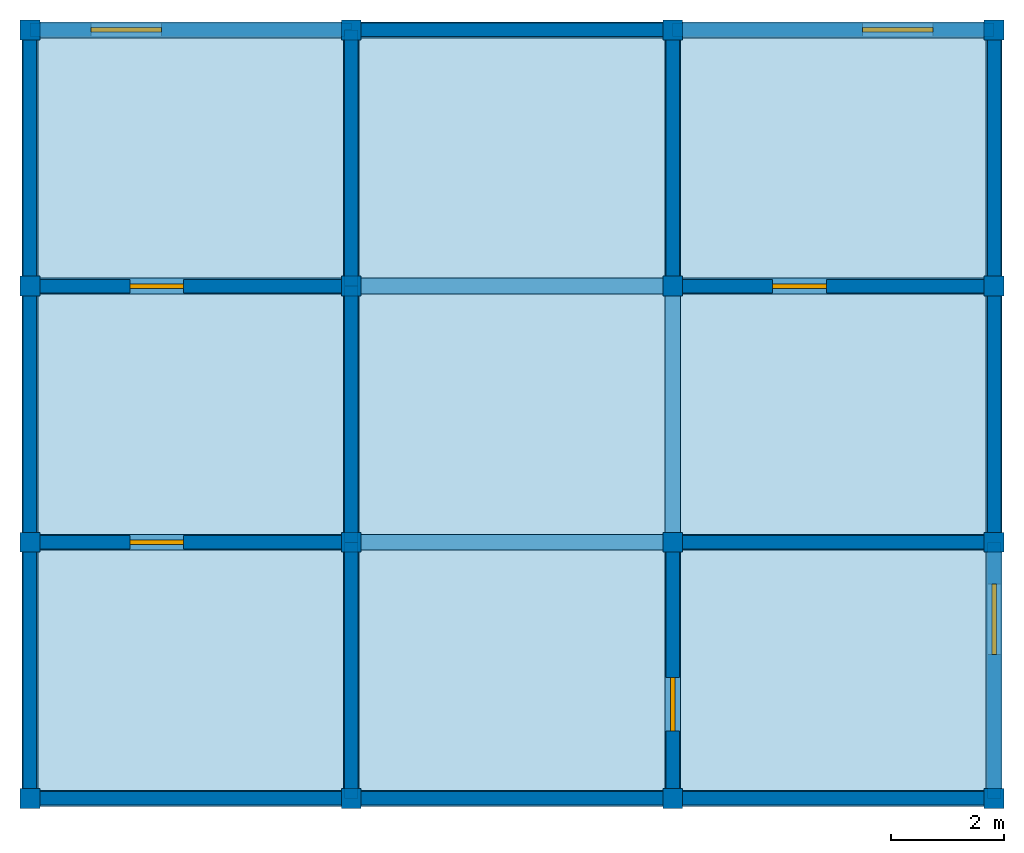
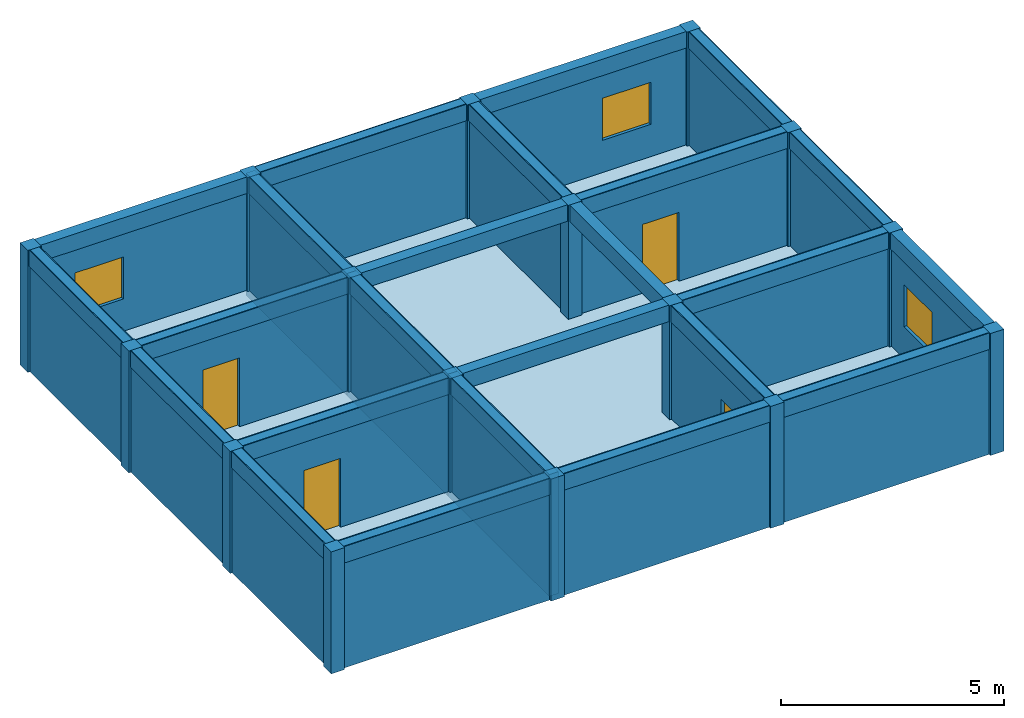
# One storey: 24 beams, 24 walls, 16 columns, 4 doors, 3 windows, 1 slab, 7 openings.
"""IFC4X3 building model written with IfcOpenShell, lengths in metres."""

from ifc_helpers import new_model, si_unit, frame, origin_with_axes, origin_2d, place, context, project, spatial, rectangle, extrude, material, element, fill, save


model = new_model("IFC4X3")

# Units and contexts
model_context = context("Model", 3, precision=1e-05, world=origin_with_axes())
ifc_project = project(units=[si_unit("LENGTHUNIT", "METRE"), si_unit("AREAUNIT", "SQUARE_METRE"), si_unit("VOLUMEUNIT", "CUBIC_METRE")], contexts=[model_context])

# Site, building, storey
site = spatial("IfcSite", under=ifc_project, Name="Valdivia Parcel", CompositionType="ELEMENT")
building = spatial("IfcBuilding", under=site, Name="Strata Block", CompositionType="ELEMENT")
storey = spatial("IfcBuildingStorey", under=building, Name="Level 3", CompositionType="ELEMENT", Elevation=6.67)

# Columns
ifc_material_1 = material(Name="Timber")
column_1_placement = place(None, frame((-8.525, -6.795, 6.671), z_axis=(0.0, 0.0, 1.0), x_axis=(1.0, 0.0, 0.0)))
element("IfcColumn", 1, at=column_1_placement, inside=storey, material=ifc_material_1, Name="Column 3.1", ObjectType="Core Column", PredefinedType="NOTDEFINED", context=model_context, shape_type="SweptSolid", body=[
    extrude(rectangle(XDim=0.35, YDim=0.35, at=origin_2d()), origin_with_axes(), (0.0, 0.0, 1.0), 3.335),
])
column_2_placement = place(None, frame((-8.525, -2.265, 6.671), z_axis=(0.0, 0.0, 1.0), x_axis=(1.0, 0.0, 0.0)))
element("IfcColumn", 2, at=column_2_placement, inside=storey, material=ifc_material_1, Name="Column 3.2", ObjectType="Structural Column", PredefinedType="PILASTER", context=model_context, shape_type="SweptSolid", body=[
    extrude(rectangle(XDim=0.35, YDim=0.35, at=origin_2d()), origin_with_axes(), (0.0, 0.0, 1.0), 3.335),
])
column_3_placement = place(None, frame((-8.525, 2.265, 6.671), z_axis=(0.0, 0.0, 1.0), x_axis=(1.0, 0.0, 0.0)))
element("IfcColumn", 3, at=column_3_placement, inside=storey, material=ifc_material_1, Name="Column 3.3", ObjectType="Core Column", PredefinedType="USERDEFINED", context=model_context, shape_type="SweptSolid", body=[
    extrude(rectangle(XDim=0.35, YDim=0.35, at=origin_2d()), origin_with_axes(), (0.0, 0.0, 1.0), 3.335),
])
column_4_placement = place(None, frame((-8.525, 6.795, 6.671), z_axis=(0.0, 0.0, 1.0), x_axis=(1.0, 0.0, 0.0)))
element("IfcColumn", 4, at=column_4_placement, inside=storey, material=ifc_material_1, Name="Column 3.4", ObjectType="Facade Column", PredefinedType="USERDEFINED", context=model_context, shape_type="SweptSolid", body=[
    extrude(rectangle(XDim=0.35, YDim=0.35, at=origin_2d()), origin_with_axes(), (0.0, 0.0, 1.0), 3.335),
])
column_5_placement = place(None, frame((-2.842, -6.795, 6.671), z_axis=(0.0, 0.0, 1.0), x_axis=(1.0, 0.0, 0.0)))
element("IfcColumn", 5, at=column_5_placement, inside=storey, material=ifc_material_1, Name="Column 3.5", ObjectType="Structural Column", PredefinedType="NOTDEFINED", context=model_context, shape_type="SweptSolid", body=[
    extrude(rectangle(XDim=0.35, YDim=0.35, at=origin_2d()), origin_with_axes(), (0.0, 0.0, 1.0), 3.335),
])
column_6_placement = place(None, frame((-2.842, -2.265, 6.671), z_axis=(0.0, 0.0, 1.0), x_axis=(1.0, 0.0, 0.0)))
element("IfcColumn", 6, at=column_6_placement, inside=storey, material=ifc_material_1, Name="Column 3.6", ObjectType="Structural Column", PredefinedType="COLUMN", context=model_context, shape_type="SweptSolid", body=[
    extrude(rectangle(XDim=0.35, YDim=0.35, at=origin_2d()), origin_with_axes(), (0.0, 0.0, 1.0), 3.335),
])
column_7_placement = place(None, frame((-2.842, 2.265, 6.671), z_axis=(0.0, 0.0, 1.0), x_axis=(1.0, 0.0, 0.0)))
element("IfcColumn", 7, at=column_7_placement, inside=storey, material=ifc_material_1, Name="Column 3.7", ObjectType="Structural Column", PredefinedType="PILASTER", context=model_context, shape_type="SweptSolid", body=[
    extrude(rectangle(XDim=0.35, YDim=0.35, at=origin_2d()), origin_with_axes(), (0.0, 0.0, 1.0), 3.335),
])
column_8_placement = place(None, frame((-2.842, 6.795, 6.671), z_axis=(0.0, 0.0, 1.0), x_axis=(1.0, 0.0, 0.0)))
element("IfcColumn", 8, at=column_8_placement, inside=storey, material=ifc_material_1, Name="Column 3.8", ObjectType="Facade Column", PredefinedType="PILASTER", context=model_context, shape_type="SweptSolid", body=[
    extrude(rectangle(XDim=0.35, YDim=0.35, at=origin_2d()), origin_with_axes(), (0.0, 0.0, 1.0), 3.335),
])
column_9_placement = place(None, frame((2.841, -6.795, 6.671), z_axis=(0.0, 0.0, 1.0), x_axis=(1.0, 0.0, 0.0)))
element("IfcColumn", 9, at=column_9_placement, inside=storey, material=ifc_material_1, Name="Column 3.9", ObjectType="Structural Column", PredefinedType="COLUMN", context=model_context, shape_type="SweptSolid", body=[
    extrude(rectangle(XDim=0.35, YDim=0.35, at=origin_2d()), origin_with_axes(), (0.0, 0.0, 1.0), 3.335),
])
column_10_placement = place(None, frame((2.841, -2.265, 6.671), z_axis=(0.0, 0.0, 1.0), x_axis=(1.0, 0.0, 0.0)))
element("IfcColumn", 10, at=column_10_placement, inside=storey, material=ifc_material_1, Name="Column 3.10", ObjectType="Core Column", PredefinedType="USERDEFINED", context=model_context, shape_type="SweptSolid", body=[
    extrude(rectangle(XDim=0.35, YDim=0.35, at=origin_2d()), origin_with_axes(), (0.0, 0.0, 1.0), 3.335),
])
column_11_placement = place(None, frame((2.841, 2.265, 6.671), z_axis=(0.0, 0.0, 1.0), x_axis=(1.0, 0.0, 0.0)))
element("IfcColumn", 11, at=column_11_placement, inside=storey, material=ifc_material_1, Name="Column 3.11", ObjectType="Facade Column", PredefinedType="COLUMN", context=model_context, shape_type="SweptSolid", body=[
    extrude(rectangle(XDim=0.35, YDim=0.35, at=origin_2d()), origin_with_axes(), (0.0, 0.0, 1.0), 3.335),
])
column_12_placement = place(None, frame((2.841, 6.795, 6.671), z_axis=(0.0, 0.0, 1.0), x_axis=(1.0, 0.0, 0.0)))
element("IfcColumn", 12, at=column_12_placement, inside=storey, material=ifc_material_1, Name="Column 3.12", ObjectType="Corner Column", PredefinedType="PILASTER", context=model_context, shape_type="SweptSolid", body=[
    extrude(rectangle(XDim=0.35, YDim=0.35, at=origin_2d()), origin_with_axes(), (0.0, 0.0, 1.0), 3.335),
])
for number, where, z_axis, x_axis, name in (
    (13, (8.524, -6.795, 6.671), (0.0, 0.0, 1.0), (1.0, 0.0, 0.0), "Column 3.13"),
    (14, (8.524, -2.265, 6.671), (0.0, 0.0, 1.0), (1.0, 0.0, 0.0), "Column 3.14"),
):
    element("IfcColumn", number, at=place(None, frame(where, z_axis=z_axis, x_axis=x_axis)), inside=storey, material=ifc_material_1, Name=name, ObjectType="Facade Column", PredefinedType="USERDEFINED", context=model_context, shape_type="SweptSolid", body=[
        extrude(rectangle(XDim=0.35, YDim=0.35, at=origin_2d()), origin_with_axes(), (0.0, 0.0, 1.0), 3.335),
    ])
column_13_placement = place(None, frame((8.524, 2.265, 6.671), z_axis=(0.0, 0.0, 1.0), x_axis=(1.0, 0.0, 0.0)))
element("IfcColumn", 15, at=column_13_placement, inside=storey, material=ifc_material_1, Name="Column 3.15", ObjectType="Facade Column", PredefinedType="PILASTER", context=model_context, shape_type="SweptSolid", body=[
    extrude(rectangle(XDim=0.35, YDim=0.35, at=origin_2d()), origin_with_axes(), (0.0, 0.0, 1.0), 3.335),
])
column_14_placement = place(None, frame((8.524, 6.795, 6.671), z_axis=(0.0, 0.0, 1.0), x_axis=(1.0, 0.0, 0.0)))
element("IfcColumn", 16, at=column_14_placement, inside=storey, material=ifc_material_1, Name="Column 3.16", ObjectType="Core Column", PredefinedType="NOTDEFINED", context=model_context, shape_type="SweptSolid", body=[
    extrude(rectangle(XDim=0.35, YDim=0.35, at=origin_2d()), origin_with_axes(), (0.0, 0.0, 1.0), 3.335),
])

# Beams
beam_1_placement = place(None, frame((-5.684, -6.795, 9.556), z_axis=(0.0, 0.0, 1.0), x_axis=(1.0, 0.0, 0.0)))
element("IfcBeam", 17, at=beam_1_placement, inside=storey, material=ifc_material_1, Name="Beam 3.1", ObjectType="Transfer Beam", PredefinedType="HOLLOWCORE", context=model_context, shape_type="SweptSolid", body=[
    extrude(rectangle(XDim=5.683, YDim=0.28, at=origin_2d()), origin_with_axes(), (0.0, 0.0, 1.0), 0.45),
])
beam_2_placement = place(None, frame((0.0, -6.795, 9.556), z_axis=(0.0, 0.0, 1.0), x_axis=(1.0, 0.0, 0.0)))
element("IfcBeam", 18, at=beam_2_placement, inside=storey, material=ifc_material_1, Name="Beam 3.2", ObjectType="Ridge Beam", PredefinedType="SPANDREL", context=model_context, shape_type="SweptSolid", body=[
    extrude(rectangle(XDim=5.683, YDim=0.28, at=origin_2d()), origin_with_axes(), (0.0, 0.0, 1.0), 0.45),
])
beam_3_placement = place(None, frame((5.682, -6.795, 9.556), z_axis=(0.0, 0.0, 1.0), x_axis=(1.0, 0.0, 0.0)))
element("IfcBeam", 19, at=beam_3_placement, inside=storey, material=ifc_material_1, Name="Beam 3.3", ObjectType="Transfer Beam", PredefinedType="T_BEAM", context=model_context, shape_type="SweptSolid", body=[
    extrude(rectangle(XDim=5.683, YDim=0.28, at=origin_2d()), origin_with_axes(), (0.0, 0.0, 1.0), 0.45),
])
beam_4_placement = place(None, frame((-5.684, -2.265, 9.556), z_axis=(0.0, 0.0, 1.0), x_axis=(1.0, 0.0, 0.0)))
element("IfcBeam", 20, at=beam_4_placement, inside=storey, material=ifc_material_1, Name="Beam 3.4", ObjectType="Ridge Beam", PredefinedType="USERDEFINED", context=model_context, shape_type="SweptSolid", body=[
    extrude(rectangle(XDim=5.683, YDim=0.28, at=origin_2d()), origin_with_axes(), (0.0, 0.0, 1.0), 0.45),
])
beam_5_placement = place(None, frame((0.0, -2.265, 9.556), z_axis=(0.0, 0.0, 1.0), x_axis=(1.0, 0.0, 0.0)))
element("IfcBeam", 21, at=beam_5_placement, inside=storey, material=ifc_material_1, Name="Beam 3.5", ObjectType="Secondary Beam", PredefinedType="SPANDREL", context=model_context, shape_type="SweptSolid", body=[
    extrude(rectangle(XDim=5.683, YDim=0.28, at=origin_2d()), origin_with_axes(), (0.0, 0.0, 1.0), 0.45),
])
beam_6_placement = place(None, frame((5.682, -2.265, 9.556), z_axis=(0.0, 0.0, 1.0), x_axis=(1.0, 0.0, 0.0)))
element("IfcBeam", 22, at=beam_6_placement, inside=storey, material=ifc_material_1, Name="Beam 3.6", ObjectType="Secondary Beam", PredefinedType="JOIST", context=model_context, shape_type="SweptSolid", body=[
    extrude(rectangle(XDim=5.683, YDim=0.28, at=origin_2d()), origin_with_axes(), (0.0, 0.0, 1.0), 0.45),
])
beam_7_placement = place(None, frame((-5.684, 2.265, 9.556), z_axis=(0.0, 0.0, 1.0), x_axis=(1.0, 0.0, 0.0)))
element("IfcBeam", 23, at=beam_7_placement, inside=storey, material=ifc_material_1, Name="Beam 3.7", ObjectType="Rafter Beam", PredefinedType="HOLLOWCORE", context=model_context, shape_type="SweptSolid", body=[
    extrude(rectangle(XDim=5.683, YDim=0.28, at=origin_2d()), origin_with_axes(), (0.0, 0.0, 1.0), 0.45),
])
beam_8_placement = place(None, frame((0.0, 2.265, 9.556), z_axis=(0.0, 0.0, 1.0), x_axis=(1.0, 0.0, 0.0)))
element("IfcBeam", 24, at=beam_8_placement, inside=storey, material=ifc_material_1, Name="Beam 3.8", ObjectType="Transfer Beam", PredefinedType="BEAM", context=model_context, shape_type="SweptSolid", body=[
    extrude(rectangle(XDim=5.683, YDim=0.28, at=origin_2d()), origin_with_axes(), (0.0, 0.0, 1.0), 0.45),
])
beam_9_placement = place(None, frame((5.682, 2.265, 9.556), z_axis=(0.0, 0.0, 1.0), x_axis=(1.0, 0.0, 0.0)))
element("IfcBeam", 25, at=beam_9_placement, inside=storey, material=ifc_material_1, Name="Beam 3.9", ObjectType="Transfer Beam", PredefinedType="LINTEL", context=model_context, shape_type="SweptSolid", body=[
    extrude(rectangle(XDim=5.683, YDim=0.28, at=origin_2d()), origin_with_axes(), (0.0, 0.0, 1.0), 0.45),
])
beam_10_placement = place(None, frame((-5.684, 6.795, 9.556), z_axis=(0.0, 0.0, 1.0), x_axis=(1.0, 0.0, 0.0)))
element("IfcBeam", 26, at=beam_10_placement, inside=storey, material=ifc_material_1, Name="Beam 3.10", ObjectType="Rafter Beam", PredefinedType="HOLLOWCORE", context=model_context, shape_type="SweptSolid", body=[
    extrude(rectangle(XDim=5.683, YDim=0.28, at=origin_2d()), origin_with_axes(), (0.0, 0.0, 1.0), 0.45),
])
beam_11_placement = place(None, frame((0.0, 6.795, 9.556), z_axis=(0.0, 0.0, 1.0), x_axis=(1.0, 0.0, 0.0)))
element("IfcBeam", 27, at=beam_11_placement, inside=storey, material=ifc_material_1, Name="Beam 3.11", ObjectType="Secondary Beam", PredefinedType="BEAM", context=model_context, shape_type="SweptSolid", body=[
    extrude(rectangle(XDim=5.683, YDim=0.28, at=origin_2d()), origin_with_axes(), (0.0, 0.0, 1.0), 0.45),
])
beam_12_placement = place(None, frame((5.682, 6.795, 9.556), z_axis=(0.0, 0.0, 1.0), x_axis=(1.0, 0.0, 0.0)))
element("IfcBeam", 28, at=beam_12_placement, inside=storey, material=ifc_material_1, Name="Beam 3.12", ObjectType="Transfer Beam", PredefinedType="T_BEAM", context=model_context, shape_type="SweptSolid", body=[
    extrude(rectangle(XDim=5.683, YDim=0.28, at=origin_2d()), origin_with_axes(), (0.0, 0.0, 1.0), 0.45),
])
beam_13_placement = place(None, frame((-8.525, -4.53, 9.556), z_axis=(0.0, 0.0, 1.0), x_axis=(0.0, 1.0, 0.0)))
element("IfcBeam", 29, at=beam_13_placement, inside=storey, material=ifc_material_1, Name="Beam 3.13", ObjectType="Transfer Beam", PredefinedType="SPANDREL", context=model_context, shape_type="SweptSolid", body=[
    extrude(rectangle(XDim=4.53, YDim=0.28, at=origin_2d()), origin_with_axes(), (0.0, 0.0, 1.0), 0.45),
])
beam_14_placement = place(None, frame((-8.525, 0.0, 9.556), z_axis=(0.0, 0.0, 1.0), x_axis=(0.0, 1.0, 0.0)))
element("IfcBeam", 30, at=beam_14_placement, inside=storey, material=ifc_material_1, Name="Beam 3.14", ObjectType="Transfer Beam", PredefinedType="LINTEL", context=model_context, shape_type="SweptSolid", body=[
    extrude(rectangle(XDim=4.53, YDim=0.28, at=origin_2d()), origin_with_axes(), (0.0, 0.0, 1.0), 0.45),
])
beam_15_placement = place(None, frame((-8.525, 4.53, 9.556), z_axis=(0.0, 0.0, 1.0), x_axis=(0.0, 1.0, 0.0)))
element("IfcBeam", 31, at=beam_15_placement, inside=storey, material=ifc_material_1, Name="Beam 3.15", ObjectType="Transfer Beam", PredefinedType="HOLLOWCORE", context=model_context, shape_type="SweptSolid", body=[
    extrude(rectangle(XDim=4.53, YDim=0.28, at=origin_2d()), origin_with_axes(), (0.0, 0.0, 1.0), 0.45),
])
beam_16_placement = place(None, frame((-2.842, -4.53, 9.556), z_axis=(0.0, 0.0, 1.0), x_axis=(0.0, 1.0, 0.0)))
element("IfcBeam", 32, at=beam_16_placement, inside=storey, material=ifc_material_1, Name="Beam 3.16", ObjectType="Secondary Beam", PredefinedType="HOLLOWCORE", context=model_context, shape_type="SweptSolid", body=[
    extrude(rectangle(XDim=4.53, YDim=0.28, at=origin_2d()), origin_with_axes(), (0.0, 0.0, 1.0), 0.45),
])
beam_17_placement = place(None, frame((-2.842, 0.0, 9.556), z_axis=(0.0, 0.0, 1.0), x_axis=(0.0, 1.0, 0.0)))
element("IfcBeam", 33, at=beam_17_placement, inside=storey, material=ifc_material_1, Name="Beam 3.17", ObjectType="Ridge Beam", PredefinedType="BEAM", context=model_context, shape_type="SweptSolid", body=[
    extrude(rectangle(XDim=4.53, YDim=0.28, at=origin_2d()), origin_with_axes(), (0.0, 0.0, 1.0), 0.45),
])
beam_18_placement = place(None, frame((-2.842, 4.53, 9.556), z_axis=(0.0, 0.0, 1.0), x_axis=(0.0, 1.0, 0.0)))
element("IfcBeam", 34, at=beam_18_placement, inside=storey, material=ifc_material_1, Name="Beam 3.18", ObjectType="Primary Beam", PredefinedType="USERDEFINED", context=model_context, shape_type="SweptSolid", body=[
    extrude(rectangle(XDim=4.53, YDim=0.28, at=origin_2d()), origin_with_axes(), (0.0, 0.0, 1.0), 0.45),
])
beam_19_placement = place(None, frame((2.841, -4.53, 9.556), z_axis=(0.0, 0.0, 1.0), x_axis=(0.0, 1.0, 0.0)))
element("IfcBeam", 35, at=beam_19_placement, inside=storey, material=ifc_material_1, Name="Beam 3.19", ObjectType="Transfer Beam", PredefinedType="JOIST", context=model_context, shape_type="SweptSolid", body=[
    extrude(rectangle(XDim=4.53, YDim=0.28, at=origin_2d()), origin_with_axes(), (0.0, 0.0, 1.0), 0.45),
])
beam_20_placement = place(None, frame((2.841, 0.0, 9.556), z_axis=(0.0, 0.0, 1.0), x_axis=(0.0, 1.0, 0.0)))
element("IfcBeam", 36, at=beam_20_placement, inside=storey, material=ifc_material_1, Name="Beam 3.20", ObjectType="Ridge Beam", PredefinedType="JOIST", context=model_context, shape_type="SweptSolid", body=[
    extrude(rectangle(XDim=4.53, YDim=0.28, at=origin_2d()), origin_with_axes(), (0.0, 0.0, 1.0), 0.45),
])
beam_21_placement = place(None, frame((2.841, 4.53, 9.556), z_axis=(0.0, 0.0, 1.0), x_axis=(0.0, 1.0, 0.0)))
element("IfcBeam", 37, at=beam_21_placement, inside=storey, material=ifc_material_1, Name="Beam 3.21", ObjectType="Primary Beam", PredefinedType="SPANDREL", context=model_context, shape_type="SweptSolid", body=[
    extrude(rectangle(XDim=4.53, YDim=0.28, at=origin_2d()), origin_with_axes(), (0.0, 0.0, 1.0), 0.45),
])
beam_22_placement = place(None, frame((8.524, -4.53, 9.556), z_axis=(0.0, 0.0, 1.0), x_axis=(0.0, 1.0, 0.0)))
element("IfcBeam", 38, at=beam_22_placement, inside=storey, material=ifc_material_1, Name="Beam 3.22", ObjectType="Secondary Beam", PredefinedType="BEAM", context=model_context, shape_type="SweptSolid", body=[
    extrude(rectangle(XDim=4.53, YDim=0.28, at=origin_2d()), origin_with_axes(), (0.0, 0.0, 1.0), 0.45),
])
beam_23_placement = place(None, frame((8.524, 0.0, 9.556), z_axis=(0.0, 0.0, 1.0), x_axis=(0.0, 1.0, 0.0)))
element("IfcBeam", 39, at=beam_23_placement, inside=storey, material=ifc_material_1, Name="Beam 3.23", ObjectType="Transfer Beam", PredefinedType="LINTEL", context=model_context, shape_type="SweptSolid", body=[
    extrude(rectangle(XDim=4.53, YDim=0.28, at=origin_2d()), origin_with_axes(), (0.0, 0.0, 1.0), 0.45),
])
beam_24_placement = place(None, frame((8.524, 4.53, 9.556), z_axis=(0.0, 0.0, 1.0), x_axis=(0.0, 1.0, 0.0)))
element("IfcBeam", 40, at=beam_24_placement, inside=storey, material=ifc_material_1, Name="Beam 3.24", ObjectType="Rafter Beam", PredefinedType="HOLLOWCORE", context=model_context, shape_type="SweptSolid", body=[
    extrude(rectangle(XDim=4.53, YDim=0.28, at=origin_2d()), origin_with_axes(), (0.0, 0.0, 1.0), 0.45),
])

# Slab
ifc_material_2 = material(Name="Composite")
slab_placement = place(None, frame((0.0, 0.0, 6.67), z_axis=(0.0, 0.0, 1.0), x_axis=(1.0, 0.0, 0.0)))
element("IfcSlab", 41, at=slab_placement, inside=storey, material=ifc_material_2, Name="Slab 3", ObjectType="Floor Slab", PredefinedType="FLOOR", context=model_context, shape_type="SweptSolid", body=[
    extrude(rectangle(XDim=17.05, YDim=13.59, at=origin_2d()), origin_with_axes(), (0.0, 0.0, 1.0), 0.22),
])

# Wall, opening, door
ifc_material_3 = material(Name="CLT")
wall_1_placement = place(None, frame((-5.684, -2.265, 6.671), z_axis=(0.0, 0.0, 1.0), x_axis=(1.0, 0.0, 0.0)))
wall_1 = element("IfcWall", 42, at=wall_1_placement, inside=storey, material=ifc_material_3, Name="Wall 3.1", ObjectType="Corridor Partition", PredefinedType="USERDEFINED", context=model_context, shape_type="SweptSolid", body=[
    extrude(rectangle(XDim=5.683, YDim=0.238962, at=origin_2d()), origin_with_axes(), (0.0, 0.0, 1.0), 3.335),
])
opening_1_placement = place(None, frame((-6.284, -2.265, 6.671), z_axis=(0.0, 0.0, 1.0), x_axis=(1.0, 0.0, 0.0)))
opening_1 = element("IfcOpeningElement", 43, at=opening_1_placement, cuts=wall_1, Name="Door opening 3.1", ObjectType="Door Opening", PredefinedType="OPENING", context=model_context, shape_type="SweptSolid", body=[
    extrude(rectangle(XDim=0.95, YDim=0.318962, at=origin_2d()), origin_with_axes(), (0.0, 0.0, 1.0), 2.1),
])
door_1_placement = place(None, frame((-6.284, -2.265, 6.671), z_axis=(0.0, 0.0, 1.0), x_axis=(1.0, 0.0, 0.0)))
door_1 = element("IfcDoor", 44, at=door_1_placement, inside=storey, Name="Door 3.1", ObjectType="Fire Door", OverallHeight=2.1, OverallWidth=0.95, context=model_context, shape_type="SweptSolid", body=[
    extrude(rectangle(XDim=0.95, YDim=0.08, at=origin_2d()), origin_with_axes(), (0.0, 0.0, 1.0), 2.1),
])
fill(opening_1, door_1)

# Walls
ifc_material_4 = material(Name="Gypsum")
wall_2_placement = place(None, frame((-2.8425, -4.53, 6.671), z_axis=(0.0, 0.0, 1.0), x_axis=(0.0, 1.0, 0.0)))
element("IfcWall", 45, at=wall_2_placement, inside=storey, material=ifc_material_4, Name="Wall 3.2", ObjectType="Exterior Wall", PredefinedType="PARTITIONING", context=model_context, shape_type="SweptSolid", body=[
    extrude(rectangle(XDim=4.53, YDim=0.238962, at=origin_2d()), origin_with_axes(), (0.0, 0.0, 1.0), 3.335),
])
wall_3_placement = place(None, frame((-5.684, -6.795, 6.671), z_axis=(0.0, 0.0, 1.0), x_axis=(1.0, 0.0, 0.0)))
element("IfcWall", 46, at=wall_3_placement, inside=storey, material=ifc_material_4, Name="Wall 3.3", ObjectType="Exterior Wall", PredefinedType="MOVABLE", context=model_context, shape_type="SweptSolid", body=[
    extrude(rectangle(XDim=5.683, YDim=0.238962, at=origin_2d()), origin_with_axes(), (0.0, 0.0, 1.0), 3.335),
])
wall_4_placement = place(None, frame((-8.5255, -4.53, 6.671), z_axis=(0.0, 0.0, 1.0), x_axis=(0.0, 1.0, 0.0)))
element("IfcWall", 47, at=wall_4_placement, inside=storey, material=ifc_material_4, Name="Wall 3.4", ObjectType="Exterior Wall", PredefinedType="POLYGONAL", context=model_context, shape_type="SweptSolid", body=[
    extrude(rectangle(XDim=4.53, YDim=0.238962, at=origin_2d()), origin_with_axes(), (0.0, 0.0, 1.0), 3.335),
])

# Wall, opening, door
ifc_material_5 = material(Name="Concrete")
wall_5_placement = place(None, frame((2.8405, -4.53, 6.671), z_axis=(0.0, 0.0, 1.0), x_axis=(0.0, 1.0, 0.0)))
wall_5 = element("IfcWall", 48, at=wall_5_placement, inside=storey, material=ifc_material_5, Name="Wall 3.5", ObjectType="Corridor Partition", PredefinedType="USERDEFINED", context=model_context, shape_type="SweptSolid", body=[
    extrude(rectangle(XDim=4.53, YDim=0.238962, at=origin_2d()), origin_with_axes(), (0.0, 0.0, 1.0), 3.335),
])
opening_2_placement = place(None, frame((2.841, -5.13, 6.671), z_axis=(0.0, 0.0, 1.0), x_axis=(0.0, 1.0, 0.0)))
opening_2 = element("IfcOpeningElement", 49, at=opening_2_placement, cuts=wall_5, Name="Door opening 3.2", ObjectType="Door Opening", PredefinedType="OPENING", context=model_context, shape_type="SweptSolid", body=[
    extrude(rectangle(XDim=0.95, YDim=0.318962, at=origin_2d()), origin_with_axes(), (0.0, 0.0, 1.0), 2.1),
])
door_2_placement = place(None, frame((2.841, -5.13, 6.671), z_axis=(0.0, 0.0, 1.0), x_axis=(0.0, 1.0, 0.0)))
door_2 = element("IfcDoor", 50, at=door_2_placement, inside=storey, Name="Door 3.2", ObjectType="Fire Door", OverallHeight=2.1, OverallWidth=0.95, context=model_context, shape_type="SweptSolid", body=[
    extrude(rectangle(XDim=0.95, YDim=0.08, at=origin_2d()), origin_with_axes(), (0.0, 0.0, 1.0), 2.1),
])
fill(opening_2, door_2)

# Walls
wall_6_placement = place(None, frame((-0.001, -6.795, 6.671), z_axis=(0.0, 0.0, 1.0), x_axis=(1.0, 0.0, 0.0)))
element("IfcWall", 51, at=wall_6_placement, inside=storey, material=ifc_material_4, Name="Wall 3.6", ObjectType="Exterior Wall", PredefinedType="SHEAR", context=model_context, shape_type="SweptSolid", body=[
    extrude(rectangle(XDim=5.683, YDim=0.238962, at=origin_2d()), origin_with_axes(), (0.0, 0.0, 1.0), 3.335),
])
wall_7_placement = place(None, frame((-2.8425, -4.53, 6.671), z_axis=(0.0, 0.0, 1.0), x_axis=(0.0, 1.0, 0.0)))
element("IfcWall", 52, at=wall_7_placement, inside=storey, material=ifc_material_4, Name="Wall 3.7", ObjectType="Exterior Wall", PredefinedType="SHEAR", context=model_context, shape_type="SweptSolid", body=[
    extrude(rectangle(XDim=4.53, YDim=0.238962, at=origin_2d()), origin_with_axes(), (0.0, 0.0, 1.0), 3.335),
])
wall_8_placement = place(None, frame((5.682, -2.265, 6.671), z_axis=(0.0, 0.0, 1.0), x_axis=(1.0, 0.0, 0.0)))
element("IfcWall", 53, at=wall_8_placement, inside=storey, material=ifc_material_4, Name="Wall 3.8", ObjectType="Corridor Partition", PredefinedType="USERDEFINED", context=model_context, shape_type="SweptSolid", body=[
    extrude(rectangle(XDim=5.683, YDim=0.238962, at=origin_2d()), origin_with_axes(), (0.0, 0.0, 1.0), 3.335),
])

# Wall, opening, window
ifc_material_6 = material(Name="Brick")
wall_9_placement = place(None, frame((8.5235, -4.53, 6.671), z_axis=(0.0, 0.0, 1.0), x_axis=(0.0, 1.0, 0.0)))
wall_9 = element("IfcWall", 54, at=wall_9_placement, inside=storey, material=ifc_material_6, Name="Wall 3.9", ObjectType="Exterior Wall", PredefinedType="SHEAR", context=model_context, shape_type="SweptSolid", body=[
    extrude(rectangle(XDim=4.53, YDim=0.238962, at=origin_2d()), origin_with_axes(), (0.0, 0.0, 1.0), 3.335),
])
opening_3_placement = place(None, frame((8.524, -3.624, 7.771), z_axis=(0.0, 0.0, 1.0), x_axis=(0.0, 1.0, 0.0)))
opening_3 = element("IfcOpeningElement", 55, at=opening_3_placement, cuts=wall_9, Name="Window opening 3.3", ObjectType="Window Opening", PredefinedType="OPENING", context=model_context, shape_type="SweptSolid", body=[
    extrude(rectangle(XDim=1.25, YDim=0.318962, at=origin_2d()), origin_with_axes(), (0.0, 0.0, 1.0), 1.15),
])
window_1_placement = place(None, frame((8.524, -3.624, 7.771), z_axis=(0.0, 0.0, 1.0), x_axis=(0.0, 1.0, 0.0)))
window_1 = element("IfcWindow", 56, at=window_1_placement, inside=storey, Name="Window 3.3", ObjectType="Operable Window", OverallHeight=1.15, OverallWidth=1.25, context=model_context, shape_type="SweptSolid", body=[
    extrude(rectangle(XDim=1.25, YDim=0.08, at=origin_2d()), origin_with_axes(), (0.0, 0.0, 1.0), 1.15),
])
fill(opening_3, window_1)

# Wall
wall_10_placement = place(None, frame((5.682, -6.795, 6.671), z_axis=(0.0, 0.0, 1.0), x_axis=(1.0, 0.0, 0.0)))
element("IfcWall", 57, at=wall_10_placement, inside=storey, material=ifc_material_6, Name="Wall 3.10", ObjectType="Exterior Wall", PredefinedType="ELEMENTEDWALL", context=model_context, shape_type="SweptSolid", body=[
    extrude(rectangle(XDim=5.683, YDim=0.238962, at=origin_2d()), origin_with_axes(), (0.0, 0.0, 1.0), 3.335),
])

# Wall, opening, door
wall_11_placement = place(None, frame((-5.684, 2.265, 6.671), z_axis=(0.0, 0.0, 1.0), x_axis=(1.0, 0.0, 0.0)))
wall_11 = element("IfcWall", 58, at=wall_11_placement, inside=storey, material=ifc_material_6, Name="Wall 3.11", ObjectType="Corridor Partition", PredefinedType="SHEAR", context=model_context, shape_type="SweptSolid", body=[
    extrude(rectangle(XDim=5.683, YDim=0.238962, at=origin_2d()), origin_with_axes(), (0.0, 0.0, 1.0), 3.335),
])
opening_4_placement = place(None, frame((-6.284, 2.265, 6.671), z_axis=(0.0, 0.0, 1.0), x_axis=(1.0, 0.0, 0.0)))
opening_4 = element("IfcOpeningElement", 59, at=opening_4_placement, cuts=wall_11, Name="Door opening 3.4", ObjectType="Door Opening", PredefinedType="OPENING", context=model_context, shape_type="SweptSolid", body=[
    extrude(rectangle(XDim=0.95, YDim=0.318962, at=origin_2d()), origin_with_axes(), (0.0, 0.0, 1.0), 2.1),
])
door_3_placement = place(None, frame((-6.284, 2.265, 6.671), z_axis=(0.0, 0.0, 1.0), x_axis=(1.0, 0.0, 0.0)))
door_3 = element("IfcDoor", 60, at=door_3_placement, inside=storey, Name="Door 3.4", ObjectType="Interior Door", OverallHeight=2.1, OverallWidth=0.95, context=model_context, shape_type="SweptSolid", body=[
    extrude(rectangle(XDim=0.95, YDim=0.08, at=origin_2d()), origin_with_axes(), (0.0, 0.0, 1.0), 2.1),
])
fill(opening_4, door_3)

# Walls
wall_12_placement = place(None, frame((-2.8425, 0.0, 6.671), z_axis=(0.0, 0.0, 1.0), x_axis=(0.0, 1.0, 0.0)))
element("IfcWall", 61, at=wall_12_placement, inside=storey, material=ifc_material_6, Name="Wall 3.12", ObjectType="Exterior Wall", PredefinedType="PARTITIONING", context=model_context, shape_type="SweptSolid", body=[
    extrude(rectangle(XDim=4.53, YDim=0.238962, at=origin_2d()), origin_with_axes(), (0.0, 0.0, 1.0), 3.335),
])
wall_13_placement = place(None, frame((-8.5255, 0.0, 6.671), z_axis=(0.0, 0.0, 1.0), x_axis=(0.0, 1.0, 0.0)))
element("IfcWall", 62, at=wall_13_placement, inside=storey, material=ifc_material_3, Name="Wall 3.13", ObjectType="Exterior Wall", PredefinedType="ELEMENTEDWALL", context=model_context, shape_type="SweptSolid", body=[
    extrude(rectangle(XDim=4.53, YDim=0.238962, at=origin_2d()), origin_with_axes(), (0.0, 0.0, 1.0), 3.335),
])
wall_14_placement = place(None, frame((-2.8425, 0.0, 6.671), z_axis=(0.0, 0.0, 1.0), x_axis=(0.0, 1.0, 0.0)))
element("IfcWall", 63, at=wall_14_placement, inside=storey, material=ifc_material_6, Name="Wall 3.14", ObjectType="Exterior Wall", PredefinedType="MOVABLE", context=model_context, shape_type="SweptSolid", body=[
    extrude(rectangle(XDim=4.53, YDim=0.238962, at=origin_2d()), origin_with_axes(), (0.0, 0.0, 1.0), 3.335),
])

# Wall, opening, door
wall_15_placement = place(None, frame((5.682, 2.265, 6.671), z_axis=(0.0, 0.0, 1.0), x_axis=(1.0, 0.0, 0.0)))
wall_15 = element("IfcWall", 64, at=wall_15_placement, inside=storey, material=ifc_material_3, Name="Wall 3.15", ObjectType="Corridor Partition", PredefinedType="SOLIDWALL", context=model_context, shape_type="SweptSolid", body=[
    extrude(rectangle(XDim=5.683, YDim=0.238962, at=origin_2d()), origin_with_axes(), (0.0, 0.0, 1.0), 3.335),
])
opening_5_placement = place(None, frame((5.082, 2.265, 6.671), z_axis=(0.0, 0.0, 1.0), x_axis=(1.0, 0.0, 0.0)))
opening_5 = element("IfcOpeningElement", 65, at=opening_5_placement, cuts=wall_15, Name="Door opening 3.6", ObjectType="Door Opening", PredefinedType="OPENING", context=model_context, shape_type="SweptSolid", body=[
    extrude(rectangle(XDim=0.95, YDim=0.318962, at=origin_2d()), origin_with_axes(), (0.0, 0.0, 1.0), 2.1),
])
door_4_placement = place(None, frame((5.082, 2.265, 6.671), z_axis=(0.0, 0.0, 1.0), x_axis=(1.0, 0.0, 0.0)))
door_4 = element("IfcDoor", 66, at=door_4_placement, inside=storey, Name="Door 3.6", ObjectType="Fire Door", OverallHeight=2.1, OverallWidth=0.95, context=model_context, shape_type="SweptSolid", body=[
    extrude(rectangle(XDim=0.95, YDim=0.08, at=origin_2d()), origin_with_axes(), (0.0, 0.0, 1.0), 2.1),
])
fill(opening_5, door_4)

# Wall
wall_16_placement = place(None, frame((8.5235, 0.0, 6.671), z_axis=(0.0, 0.0, 1.0), x_axis=(0.0, 1.0, 0.0)))
element("IfcWall", 67, at=wall_16_placement, inside=storey, material=ifc_material_3, Name="Wall 3.16", ObjectType="Exterior Wall", PredefinedType="SOLIDWALL", context=model_context, shape_type="SweptSolid", body=[
    extrude(rectangle(XDim=4.53, YDim=0.238962, at=origin_2d()), origin_with_axes(), (0.0, 0.0, 1.0), 3.335),
])

# Wall, opening, window
wall_17_placement = place(None, frame((-5.684, 6.795, 6.671), z_axis=(0.0, 0.0, 1.0), x_axis=(1.0, 0.0, 0.0)))
wall_17 = element("IfcWall", 68, at=wall_17_placement, inside=storey, material=ifc_material_5, Name="Wall 3.17", ObjectType="Exterior Wall", PredefinedType="STANDARD", context=model_context, shape_type="SweptSolid", body=[
    extrude(rectangle(XDim=5.683, YDim=0.238962, at=origin_2d()), origin_with_axes(), (0.0, 0.0, 1.0), 3.335),
])
opening_6_placement = place(None, frame((-6.821, 6.795, 7.771), z_axis=(0.0, 0.0, 1.0), x_axis=(1.0, 0.0, 0.0)))
opening_6 = element("IfcOpeningElement", 69, at=opening_6_placement, cuts=wall_17, Name="Window opening 3.5", ObjectType="Window Opening", PredefinedType="OPENING", context=model_context, shape_type="SweptSolid", body=[
    extrude(rectangle(XDim=1.25, YDim=0.318962, at=origin_2d()), origin_with_axes(), (0.0, 0.0, 1.0), 1.15),
])
window_2_placement = place(None, frame((-6.821, 6.795, 7.771), z_axis=(0.0, 0.0, 1.0), x_axis=(1.0, 0.0, 0.0)))
window_2 = element("IfcWindow", 70, at=window_2_placement, inside=storey, Name="Window 3.5", ObjectType="Fixed Window", OverallHeight=1.15, OverallWidth=1.25, context=model_context, shape_type="SweptSolid", body=[
    extrude(rectangle(XDim=1.25, YDim=0.08, at=origin_2d()), origin_with_axes(), (0.0, 0.0, 1.0), 1.15),
])
fill(opening_6, window_2)

# Walls
wall_18_placement = place(None, frame((-2.8425, 4.53, 6.671), z_axis=(0.0, 0.0, 1.0), x_axis=(0.0, 1.0, 0.0)))
element("IfcWall", 71, at=wall_18_placement, inside=storey, material=ifc_material_6, Name="Wall 3.18", ObjectType="Exterior Wall", PredefinedType="ELEMENTEDWALL", context=model_context, shape_type="SweptSolid", body=[
    extrude(rectangle(XDim=4.53, YDim=0.238962, at=origin_2d()), origin_with_axes(), (0.0, 0.0, 1.0), 3.335),
])
wall_19_placement = place(None, frame((-8.5255, 4.53, 6.671), z_axis=(0.0, 0.0, 1.0), x_axis=(0.0, 1.0, 0.0)))
element("IfcWall", 72, at=wall_19_placement, inside=storey, material=ifc_material_3, Name="Wall 3.19", ObjectType="Exterior Wall", PredefinedType="PARTITIONING", context=model_context, shape_type="SweptSolid", body=[
    extrude(rectangle(XDim=4.53, YDim=0.238962, at=origin_2d()), origin_with_axes(), (0.0, 0.0, 1.0), 3.335),
])
wall_20_placement = place(None, frame((-0.001, 6.795, 6.671), z_axis=(0.0, 0.0, 1.0), x_axis=(1.0, 0.0, 0.0)))
element("IfcWall", 73, at=wall_20_placement, inside=storey, material=ifc_material_3, Name="Wall 3.20", ObjectType="Exterior Wall", PredefinedType="SOLIDWALL", context=model_context, shape_type="SweptSolid", body=[
    extrude(rectangle(XDim=5.683, YDim=0.238962, at=origin_2d()), origin_with_axes(), (0.0, 0.0, 1.0), 3.335),
])
wall_21_placement = place(None, frame((2.8405, 4.53, 6.671), z_axis=(0.0, 0.0, 1.0), x_axis=(0.0, 1.0, 0.0)))
element("IfcWall", 74, at=wall_21_placement, inside=storey, material=ifc_material_5, Name="Wall 3.21", ObjectType="Corridor Partition", PredefinedType="PLUMBINGWALL", context=model_context, shape_type="SweptSolid", body=[
    extrude(rectangle(XDim=4.53, YDim=0.238962, at=origin_2d()), origin_with_axes(), (0.0, 0.0, 1.0), 3.335),
])
wall_22_placement = place(None, frame((-2.8425, 4.53, 6.671), z_axis=(0.0, 0.0, 1.0), x_axis=(0.0, 1.0, 0.0)))
element("IfcWall", 75, at=wall_22_placement, inside=storey, material=ifc_material_6, Name="Wall 3.22", ObjectType="Exterior Wall", PredefinedType="STANDARD", context=model_context, shape_type="SweptSolid", body=[
    extrude(rectangle(XDim=4.53, YDim=0.238962, at=origin_2d()), origin_with_axes(), (0.0, 0.0, 1.0), 3.335),
])

# Wall, opening, window
wall_23_placement = place(None, frame((5.682, 6.795, 6.671), z_axis=(0.0, 0.0, 1.0), x_axis=(1.0, 0.0, 0.0)))
wall_23 = element("IfcWall", 76, at=wall_23_placement, inside=storey, material=ifc_material_4, Name="Wall 3.23", ObjectType="Exterior Wall", PredefinedType="POLYGONAL", context=model_context, shape_type="SweptSolid", body=[
    extrude(rectangle(XDim=5.683, YDim=0.238962, at=origin_2d()), origin_with_axes(), (0.0, 0.0, 1.0), 3.335),
])
opening_7_placement = place(None, frame((6.819, 6.795, 7.771), z_axis=(0.0, 0.0, 1.0), x_axis=(1.0, 0.0, 0.0)))
opening_7 = element("IfcOpeningElement", 77, at=opening_7_placement, cuts=wall_23, Name="Window opening 3.7", ObjectType="Window Opening", PredefinedType="OPENING", context=model_context, shape_type="SweptSolid", body=[
    extrude(rectangle(XDim=1.25, YDim=0.318962, at=origin_2d()), origin_with_axes(), (0.0, 0.0, 1.0), 1.15),
])
window_3_placement = place(None, frame((6.819, 6.795, 7.771), z_axis=(0.0, 0.0, 1.0), x_axis=(1.0, 0.0, 0.0)))
window_3 = element("IfcWindow", 78, at=window_3_placement, inside=storey, Name="Window 3.7", ObjectType="Operable Window", OverallHeight=1.15, OverallWidth=1.25, context=model_context, shape_type="SweptSolid", body=[
    extrude(rectangle(XDim=1.25, YDim=0.08, at=origin_2d()), origin_with_axes(), (0.0, 0.0, 1.0), 1.15),
])
fill(opening_7, window_3)

# Wall
wall_24_placement = place(None, frame((8.5235, 4.53, 6.671), z_axis=(0.0, 0.0, 1.0), x_axis=(0.0, 1.0, 0.0)))
element("IfcWall", 79, at=wall_24_placement, inside=storey, material=ifc_material_3, Name="Wall 3.24", ObjectType="Exterior Wall", PredefinedType="PLUMBINGWALL", context=model_context, shape_type="SweptSolid", body=[
    extrude(rectangle(XDim=4.53, YDim=0.238962, at=origin_2d()), origin_with_axes(), (0.0, 0.0, 1.0), 3.335),
])

save(model, "model.ifc")
